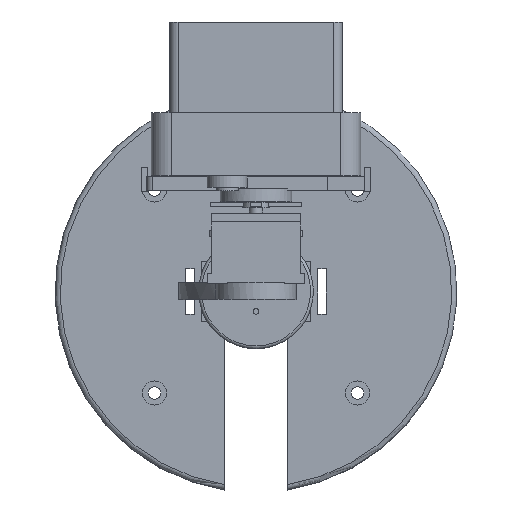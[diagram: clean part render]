
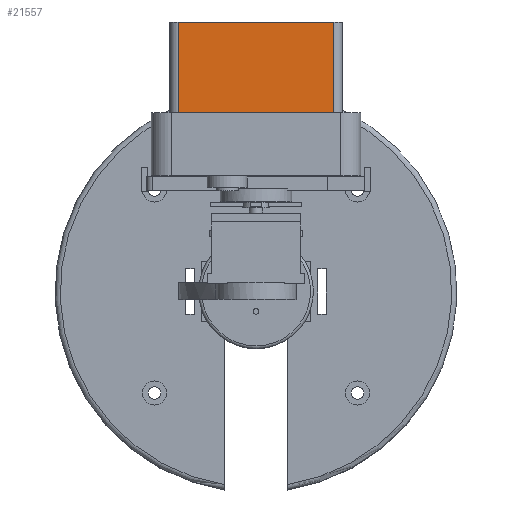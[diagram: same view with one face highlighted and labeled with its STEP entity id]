
A CAD part, top view. The second image highlights one B-rep face of the part: STEP entity #21557.
In plain terms, the highlighted planar face has unit normal (0, 0, 1).
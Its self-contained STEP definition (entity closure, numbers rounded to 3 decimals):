
#20927 = PLANE('',#20928);
#20928 = AXIS2_PLACEMENT_3D('',#20929,#20930,#20931);
#20929 = CARTESIAN_POINT('',(-30.,49.,90.));
#20930 = DIRECTION('',(0.,1.,0.));
#20931 = DIRECTION('',(0.,0.,1.));
#20983 = PLANE('',#20984);
#20984 = AXIS2_PLACEMENT_3D('',#20985,#20986,#20987);
#20985 = CARTESIAN_POINT('',(-30.,93.64,90.));
#20986 = DIRECTION('',(0.,1.,0.));
#20987 = DIRECTION('',(0.,0.,1.));
#21009 = CYLINDRICAL_SURFACE('',#21010,3.);
#21010 = AXIS2_PLACEMENT_3D('',#21011,#21012,#21013);
#21011 = CARTESIAN_POINT('',(-27.,49.,99.));
#21012 = DIRECTION('',(0.,1.,0.));
#21013 = DIRECTION('',(-1.,0.,0.));
#21082 = VERTEX_POINT('',#21083);
#21083 = CARTESIAN_POINT('',(-27.,49.,102.));
#21105 = EDGE_CURVE('',#21082,#21106,#21108,.T.);
#21106 = VERTEX_POINT('',#21107);
#21107 = CARTESIAN_POINT('',(27.,49.,102.));
#21108 = SURFACE_CURVE('',#21109,(#21113,#21120),.PCURVE_S1.);
#21109 = LINE('',#21110,#21111);
#21110 = CARTESIAN_POINT('',(-30.,49.,102.));
#21111 = VECTOR('',#21112,1.);
#21112 = DIRECTION('',(1.,0.,0.));
#21113 = PCURVE('',#20927,#21114);
#21114 = DEFINITIONAL_REPRESENTATION('',(#21115),#21119);
#21115 = LINE('',#21116,#21117);
#21116 = CARTESIAN_POINT('',(12.,0.));
#21117 = VECTOR('',#21118,1.);
#21118 = DIRECTION('',(0.,1.));
#21119 = ( GEOMETRIC_REPRESENTATION_CONTEXT(2) 
PARAMETRIC_REPRESENTATION_CONTEXT() REPRESENTATION_CONTEXT('2D SPACE',''
  ) );
#21120 = PCURVE('',#21121,#21126);
#21121 = PLANE('',#21122);
#21122 = AXIS2_PLACEMENT_3D('',#21123,#21124,#21125);
#21123 = CARTESIAN_POINT('',(-30.,49.,102.));
#21124 = DIRECTION('',(0.,0.,1.));
#21125 = DIRECTION('',(1.,0.,0.));
#21126 = DEFINITIONAL_REPRESENTATION('',(#21127),#21131);
#21127 = LINE('',#21128,#21129);
#21128 = CARTESIAN_POINT('',(0.,0.));
#21129 = VECTOR('',#21130,1.);
#21130 = DIRECTION('',(1.,0.));
#21131 = ( GEOMETRIC_REPRESENTATION_CONTEXT(2) 
PARAMETRIC_REPRESENTATION_CONTEXT() REPRESENTATION_CONTEXT('2D SPACE',''
  ) );
#21154 = CYLINDRICAL_SURFACE('',#21155,3.);
#21155 = AXIS2_PLACEMENT_3D('',#21156,#21157,#21158);
#21156 = CARTESIAN_POINT('',(27.,49.,99.));
#21157 = DIRECTION('',(0.,1.,0.));
#21158 = DIRECTION('',(1.,0.,-0.));
#21279 = EDGE_CURVE('',#21082,#21280,#21282,.T.);
#21280 = VERTEX_POINT('',#21281);
#21281 = CARTESIAN_POINT('',(-27.,93.64,102.));
#21282 = SURFACE_CURVE('',#21283,(#21287,#21294),.PCURVE_S1.);
#21283 = LINE('',#21284,#21285);
#21284 = CARTESIAN_POINT('',(-27.,49.,102.));
#21285 = VECTOR('',#21286,1.);
#21286 = DIRECTION('',(0.,1.,0.));
#21287 = PCURVE('',#21009,#21288);
#21288 = DEFINITIONAL_REPRESENTATION('',(#21289),#21293);
#21289 = LINE('',#21290,#21291);
#21290 = CARTESIAN_POINT('',(1.571,0.));
#21291 = VECTOR('',#21292,1.);
#21292 = DIRECTION('',(0.,1.));
#21293 = ( GEOMETRIC_REPRESENTATION_CONTEXT(2) 
PARAMETRIC_REPRESENTATION_CONTEXT() REPRESENTATION_CONTEXT('2D SPACE',''
  ) );
#21294 = PCURVE('',#21121,#21295);
#21295 = DEFINITIONAL_REPRESENTATION('',(#21296),#21300);
#21296 = LINE('',#21297,#21298);
#21297 = CARTESIAN_POINT('',(3.,0.));
#21298 = VECTOR('',#21299,1.);
#21299 = DIRECTION('',(0.,1.));
#21300 = ( GEOMETRIC_REPRESENTATION_CONTEXT(2) 
PARAMETRIC_REPRESENTATION_CONTEXT() REPRESENTATION_CONTEXT('2D SPACE',''
  ) );
#21354 = EDGE_CURVE('',#21280,#21355,#21357,.T.);
#21355 = VERTEX_POINT('',#21356);
#21356 = CARTESIAN_POINT('',(27.,93.64,102.));
#21357 = SURFACE_CURVE('',#21358,(#21362,#21369),.PCURVE_S1.);
#21358 = LINE('',#21359,#21360);
#21359 = CARTESIAN_POINT('',(-30.,93.64,102.));
#21360 = VECTOR('',#21361,1.);
#21361 = DIRECTION('',(1.,0.,0.));
#21362 = PCURVE('',#20983,#21363);
#21363 = DEFINITIONAL_REPRESENTATION('',(#21364),#21368);
#21364 = LINE('',#21365,#21366);
#21365 = CARTESIAN_POINT('',(12.,0.));
#21366 = VECTOR('',#21367,1.);
#21367 = DIRECTION('',(0.,1.));
#21368 = ( GEOMETRIC_REPRESENTATION_CONTEXT(2) 
PARAMETRIC_REPRESENTATION_CONTEXT() REPRESENTATION_CONTEXT('2D SPACE',''
  ) );
#21369 = PCURVE('',#21121,#21370);
#21370 = DEFINITIONAL_REPRESENTATION('',(#21371),#21375);
#21371 = LINE('',#21372,#21373);
#21372 = CARTESIAN_POINT('',(0.,44.64));
#21373 = VECTOR('',#21374,1.);
#21374 = DIRECTION('',(1.,0.));
#21375 = ( GEOMETRIC_REPRESENTATION_CONTEXT(2) 
PARAMETRIC_REPRESENTATION_CONTEXT() REPRESENTATION_CONTEXT('2D SPACE',''
  ) );
#21535 = EDGE_CURVE('',#21106,#21355,#21536,.T.);
#21536 = SURFACE_CURVE('',#21537,(#21541,#21548),.PCURVE_S1.);
#21537 = LINE('',#21538,#21539);
#21538 = CARTESIAN_POINT('',(27.,49.,102.));
#21539 = VECTOR('',#21540,1.);
#21540 = DIRECTION('',(0.,1.,0.));
#21541 = PCURVE('',#21154,#21542);
#21542 = DEFINITIONAL_REPRESENTATION('',(#21543),#21547);
#21543 = LINE('',#21544,#21545);
#21544 = CARTESIAN_POINT('',(-1.571,0.));
#21545 = VECTOR('',#21546,1.);
#21546 = DIRECTION('',(-0.,1.));
#21547 = ( GEOMETRIC_REPRESENTATION_CONTEXT(2) 
PARAMETRIC_REPRESENTATION_CONTEXT() REPRESENTATION_CONTEXT('2D SPACE',''
  ) );
#21548 = PCURVE('',#21121,#21549);
#21549 = DEFINITIONAL_REPRESENTATION('',(#21550),#21554);
#21550 = LINE('',#21551,#21552);
#21551 = CARTESIAN_POINT('',(57.,0.));
#21552 = VECTOR('',#21553,1.);
#21553 = DIRECTION('',(0.,1.));
#21554 = ( GEOMETRIC_REPRESENTATION_CONTEXT(2) 
PARAMETRIC_REPRESENTATION_CONTEXT() REPRESENTATION_CONTEXT('2D SPACE',''
  ) );
#21557 = ADVANCED_FACE('',(#21558),#21121,.T.);
#21558 = FACE_BOUND('',#21559,.T.);
#21559 = EDGE_LOOP('',(#21560,#21561,#21562,#21563));
#21560 = ORIENTED_EDGE('',*,*,#21354,.F.);
#21561 = ORIENTED_EDGE('',*,*,#21279,.F.);
#21562 = ORIENTED_EDGE('',*,*,#21105,.T.);
#21563 = ORIENTED_EDGE('',*,*,#21535,.T.);
